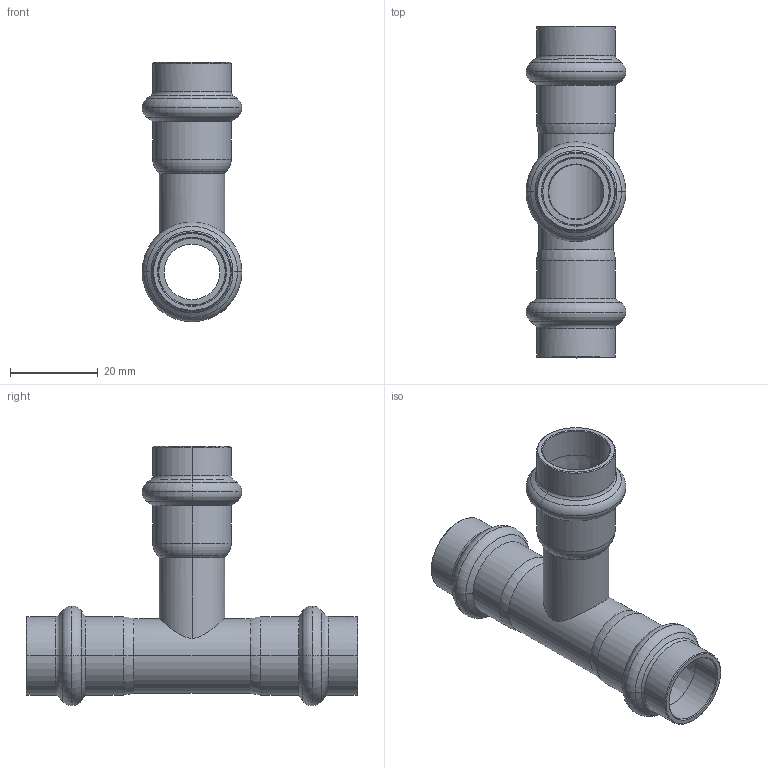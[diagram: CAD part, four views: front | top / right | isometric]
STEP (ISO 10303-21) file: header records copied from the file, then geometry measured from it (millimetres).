
FILE_DESCRIPTION(('CoCreate Modeling STEP Export'),'2;1');
FILE_NAME('8130VW15.stp','2013-01-29T16:14:36',(''),(''),'CoCreate Modeling STEP processor for AP214 (Solid Model)','CoCreate Modeling 17.00A 17-Jun-2010 (C) Parametric Technology GmbH','');
FILE_SCHEMA(('AUTOMOTIVE_DESIGN { 1 0 10303 214 1 1 1 1 }'));
Length unit declared in the file: millimetre
Products named in the file (1): 8130VW15
Bounding box: 22.69 x 75.51 x 59.04 mm (x, y, z)
Volume: 9442.1 mm3; surface area: 12481.6 mm2
Topology: 1 solids, 1 shells, 130 faces, 272 edges, 152 vertices
Faces by surface type: torus 42, cylinder 40, cone 36, plane 10, bspline 2
Entity records: 5464 total; most frequent: CARTESIAN_POINT 3115, ORIENTED_EDGE 544, DIRECTION 430, EDGE_CURVE 272, AXIS2_PLACEMENT_3D 177, VERTEX_POINT 152, EDGE_LOOP 142, FACE_OUTER_BOUND 130
